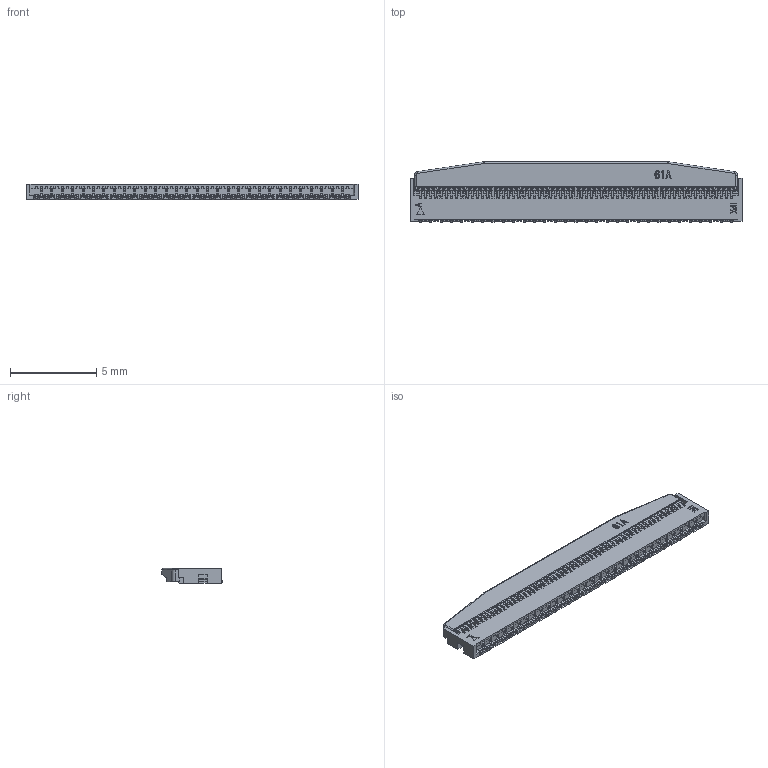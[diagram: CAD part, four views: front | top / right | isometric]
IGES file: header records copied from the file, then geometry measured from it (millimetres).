
Start section: SolidWorks IGES file using analytic representation for surfaces
Global section: file name: Q:\個人専用\SHIMADA\MFX3-BFN\3D-DATA\61p\iges\20538-061ExxxC ACT CLOSE IGES R0 ALL.IGS; native system: SolidWorks 2011; preprocessor: SolidWorks 2011; author: kaihatsu-3dcad-12; date: 120619.174602; units: millimetre
Bounding box: 19.2 x 3.5 x 0.9 mm (x, y, z)
Surface area: 283.7 mm2 (no closed solid volume)
Topology: 0 solids, 0 shells, 5291 faces, 34443 edges, 34441 vertices
Faces by surface type: bspline 4458, revolution 833
